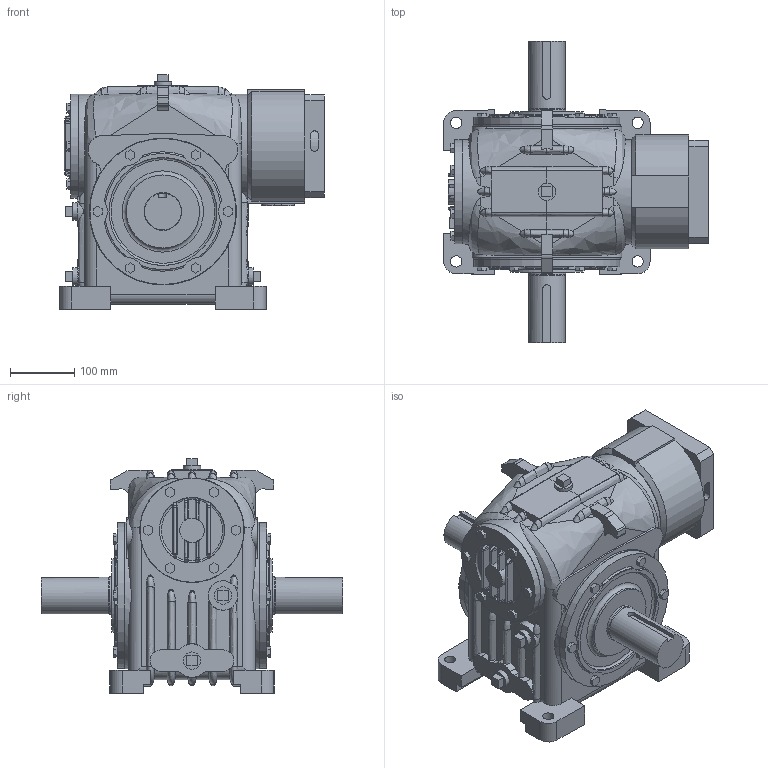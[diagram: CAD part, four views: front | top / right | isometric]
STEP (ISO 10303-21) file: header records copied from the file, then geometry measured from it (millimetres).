
FILE_DESCRIPTION(/* description */ ('Unknown'),/* implementation_level */ '2;1');
FILE_NAME(/* name */ 'O40CB-3-B12CBE-',/* time_stamp */ '2024-11-21T10:01:14-05:00',/* author */ ('Unknown'),/* organization */ ('Unknown'),/* preprocessor_version */ 'ST-DEVELOPER v19.4',/* originating_system */ 'Solid Edge',/* authorisation */ 'Unknown');
FILE_SCHEMA (('AUTOMOTIVE_DESIGN {1 0 10303 214 3 1 1}'));
Length unit declared in the file: millimetre
Products named in the file (7): O40CB-3-B12CBE-; 40-1-CP; 40-OUTS; 40-WCAP; 40-SM20-CP; MP3B-12-CP; KLC125-C-16
Assembly tree (7 placements, depth 2):
  O40CB-3-B12CBE-
    40-1-CP
    40-OUTS  x2
    40-WCAP
    40-SM20-CP
    MP3B-12-CP
    KLC125-C-16
Bounding box: 411.65 x 469.9 x 365.38 mm (x, y, z)
Volume: 18613138.6 mm3; surface area: 1119896.5 mm2
Topology: 7 solids, 7 shells, 741 faces, 1930 edges, 1271 vertices
Faces by surface type: plane 417, cylinder 160, bspline 124, torus 29, cone 11
Full cylindrical faces by diameter (mm): 0.254 x9, 5.188 x4, 9.525 x8, 14.122 x6, 17.462 x4, 26.924 x4, 38.087 x1, 38.1 x1, 39.688 x1, 45.72 x2, 57.137 x2, 58.737 x2, 63 x1, 77 x1, 80 x1, 98.425 x1, 101.6 x1, 102.108 x1, 105 x1, 120.218 x1, 150.012 x1, 150.05 x1, 161.925 x1, 162.56 x2, 227.33 x2, 228.6 x2
Entity records: 30286 total; most frequent: CARTESIAN_POINT 13980, ORIENTED_EDGE 3276, DIRECTION 2687, EDGE_CURVE 1638, VERTEX_POINT 1112, AXIS2_PLACEMENT_3D 927, LINE 833, VECTOR 833
